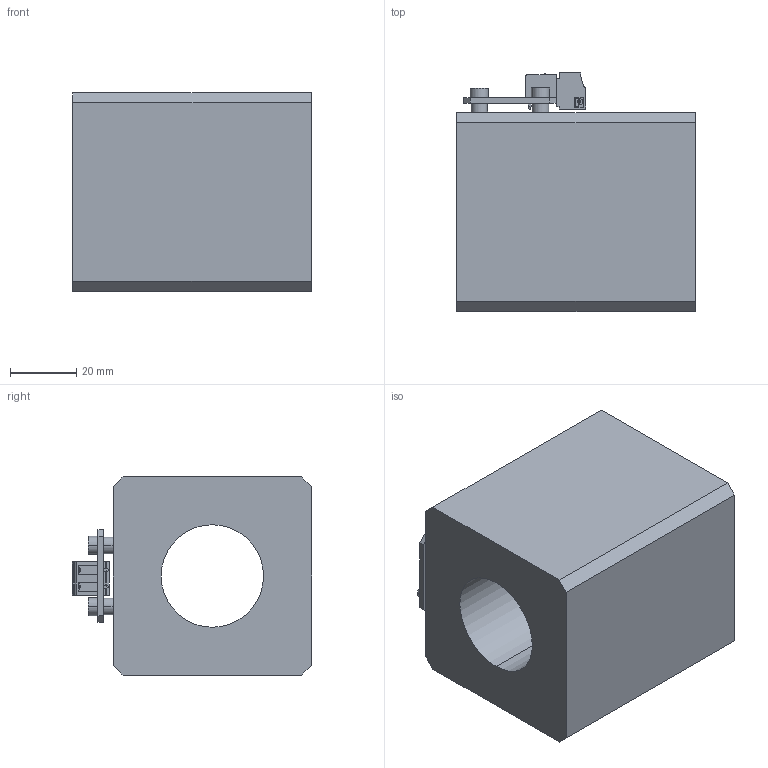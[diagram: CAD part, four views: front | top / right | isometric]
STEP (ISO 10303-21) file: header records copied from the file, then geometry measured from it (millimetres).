
FILE_DESCRIPTION (( 'STEP AP214' ), '1' );
FILE_NAME ('MXS60_31x72-M209b.STEP', '2015-07-17T07:54:55', ( '' ), ( '' ), 'SwSTEP 2.0', 'SolidWorks 2014', '' );
FILE_SCHEMA (( 'AUTOMOTIVE_DESIGN' ));
Length unit declared in the file: millimetre
Products named in the file (2): MXS60_31x72-M209b
Bounding box: 72 x 72.3 x 60 mm (x, y, z)
Volume: 213995.5 mm3; surface area: 39547.8 mm2
Topology: 19 solids, 20 shells, 607 faces, 1527 edges, 989 vertices
Faces by surface type: plane 367, cylinder 197, cone 30, bspline 11, torus 2
Entity records: 25305 total; most frequent: CARTESIAN_POINT 3663, DIRECTION 3044, ORIENTED_EDGE 3030, EDGE_CURVE 1515, VECTOR 1024, LINE 1024, AXIS2_PLACEMENT_3D 1010, VERTEX_POINT 989
